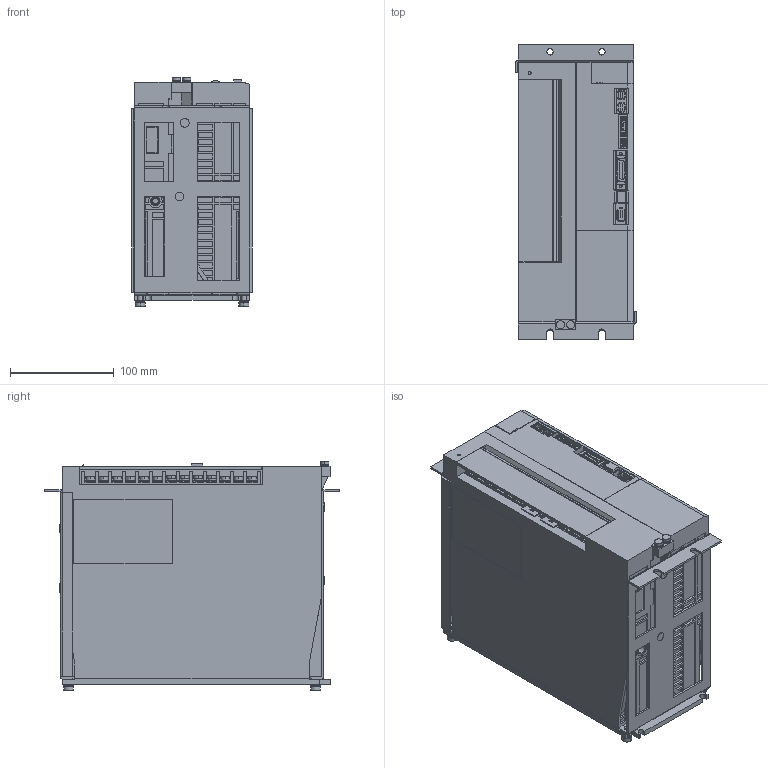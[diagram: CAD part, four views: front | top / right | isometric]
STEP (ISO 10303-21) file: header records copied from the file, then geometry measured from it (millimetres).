
FILE_DESCRIPTION (( 'STEP AP203' ), '1' );
FILE_NAME ('sgd7s_330a20a001.STEP', '2015-09-18T08:30:08', ( '匠エンジニアリング山之内' ), ( 'TAKUMI-Engniaring' ), 'SwSTEP 2.0', 'SolidWorks 2006303', '' );
FILE_SCHEMA (( 'CONFIG_CONTROL_DESIGN' ));
Length unit declared in the file: millimetre
Products named in the file (9): sgd7s_330a20a001_terminal; sgd7s_330a20a001_mount1; sgd7s_330a20a001_cover3; sgd7s_330a20a001; sgd7s_330a20a001_base; sgd7s_330a20a001_cover; sgd7s_330a20a001_cover2; sgd7s_330a20a001_connector; sgd7s_330a20a001_mount2
Assembly tree (10 placements, depth 2):
  sgd7s_330a20a001
    sgd7s_330a20a001_cover2  x2
    sgd7s_330a20a001_connector
    sgd7s_330a20a001_mount2
    sgd7s_330a20a001_cover
    sgd7s_330a20a001_cover3
    sgd7s_330a20a001_terminal  x2
    sgd7s_330a20a001_base
    sgd7s_330a20a001_mount1
Bounding box: 116 x 285 x 220.6 mm (x, y, z)
Volume: 5543694.4 mm3; surface area: 359947.3 mm2
Topology: 10 solids, 10 shells, 2435 faces, 6276 edges, 4146 vertices
Faces by surface type: plane 2033, cylinder 397, cone 4, sphere 1
Entity records: 72907 total; most frequent: CARTESIAN_POINT 12637, ORIENTED_EDGE 12324, DIRECTION 11782, EDGE_CURVE 6162, VECTOR 5352, LINE 5352, VERTEX_POINT 4070, AXIS2_PLACEMENT_3D 3215
